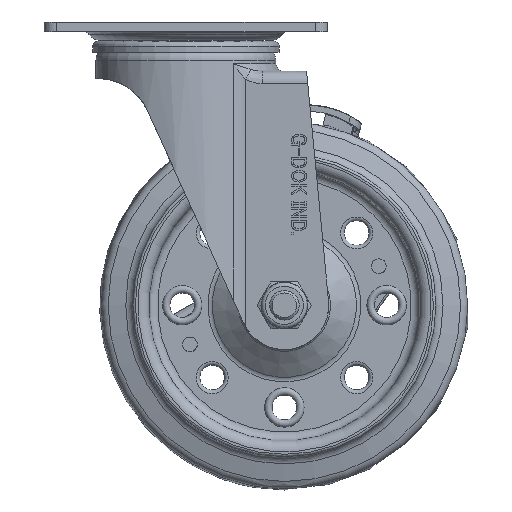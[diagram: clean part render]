
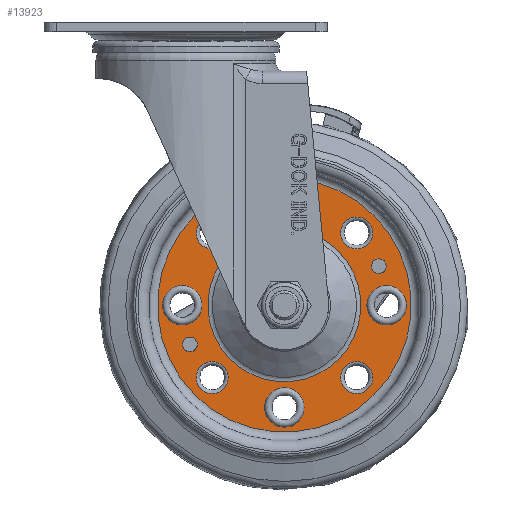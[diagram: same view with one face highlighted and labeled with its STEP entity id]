
A CAD part, left-side view. The second image highlights one B-rep face of the part: STEP entity #13923.
In plain terms, the highlighted planar face has unit normal (-1, 0, 0).
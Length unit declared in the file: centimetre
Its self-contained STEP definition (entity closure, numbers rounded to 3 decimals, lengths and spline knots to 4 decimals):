
#774=CIRCLE('',#15033,5.15);
#775=CIRCLE('',#15034,0.8);
#776=CIRCLE('',#15035,0.8);
#777=CIRCLE('',#15036,0.8);
#778=CIRCLE('',#15037,0.8);
#779=CIRCLE('',#15038,0.3);
#780=CIRCLE('',#15039,0.3);
#781=CIRCLE('',#15040,0.65);
#782=CIRCLE('',#15041,0.65);
#783=CIRCLE('',#15042,0.65);
#784=CIRCLE('',#15043,0.65);
#785=CIRCLE('',#15044,3.1053);
#3166=FACE_BOUND('',#5070,.T.);
#3167=FACE_BOUND('',#5071,.T.);
#3168=FACE_BOUND('',#5072,.T.);
#3169=FACE_BOUND('',#5073,.T.);
#3170=FACE_BOUND('',#5074,.T.);
#3171=FACE_BOUND('',#5075,.T.);
#3172=FACE_BOUND('',#5076,.T.);
#3173=FACE_BOUND('',#5077,.T.);
#3174=FACE_BOUND('',#5078,.T.);
#3175=FACE_BOUND('',#5079,.T.);
#3176=FACE_BOUND('',#5080,.T.);
#4034=FACE_OUTER_BOUND('',#5069,.T.);
#5069=EDGE_LOOP('',(#12630));
#5070=EDGE_LOOP('',(#12631));
#5071=EDGE_LOOP('',(#12632));
#5072=EDGE_LOOP('',(#12633));
#5073=EDGE_LOOP('',(#12634));
#5074=EDGE_LOOP('',(#12635));
#5075=EDGE_LOOP('',(#12636));
#5076=EDGE_LOOP('',(#12637));
#5077=EDGE_LOOP('',(#12638));
#5078=EDGE_LOOP('',(#12639));
#5079=EDGE_LOOP('',(#12640));
#5080=EDGE_LOOP('',(#12641));
#6911=VERTEX_POINT('',#32201);
#6912=VERTEX_POINT('',#32203);
#6913=VERTEX_POINT('',#32205);
#6914=VERTEX_POINT('',#32207);
#6915=VERTEX_POINT('',#32209);
#6916=VERTEX_POINT('',#32211);
#6917=VERTEX_POINT('',#32213);
#6918=VERTEX_POINT('',#32215);
#6919=VERTEX_POINT('',#32217);
#6920=VERTEX_POINT('',#32219);
#6921=VERTEX_POINT('',#32221);
#6922=VERTEX_POINT('',#32223);
#8844=EDGE_CURVE('',#6911,#6911,#774,.T.);
#8845=EDGE_CURVE('',#6912,#6912,#775,.T.);
#8846=EDGE_CURVE('',#6913,#6913,#776,.T.);
#8847=EDGE_CURVE('',#6914,#6914,#777,.T.);
#8848=EDGE_CURVE('',#6915,#6915,#778,.T.);
#8849=EDGE_CURVE('',#6916,#6916,#779,.T.);
#8850=EDGE_CURVE('',#6917,#6917,#780,.T.);
#8851=EDGE_CURVE('',#6918,#6918,#781,.T.);
#8852=EDGE_CURVE('',#6919,#6919,#782,.T.);
#8853=EDGE_CURVE('',#6920,#6920,#783,.T.);
#8854=EDGE_CURVE('',#6921,#6921,#784,.T.);
#8855=EDGE_CURVE('',#6922,#6922,#785,.T.);
#12630=ORIENTED_EDGE('',*,*,#8844,.F.);
#12631=ORIENTED_EDGE('',*,*,#8845,.T.);
#12632=ORIENTED_EDGE('',*,*,#8846,.T.);
#12633=ORIENTED_EDGE('',*,*,#8847,.T.);
#12634=ORIENTED_EDGE('',*,*,#8848,.T.);
#12635=ORIENTED_EDGE('',*,*,#8849,.T.);
#12636=ORIENTED_EDGE('',*,*,#8850,.T.);
#12637=ORIENTED_EDGE('',*,*,#8851,.T.);
#12638=ORIENTED_EDGE('',*,*,#8852,.T.);
#12639=ORIENTED_EDGE('',*,*,#8853,.T.);
#12640=ORIENTED_EDGE('',*,*,#8854,.T.);
#12641=ORIENTED_EDGE('',*,*,#8855,.T.);
#13135=PLANE('',#15032);
#13923=ADVANCED_FACE('',(#4034,#3166,#3167,#3168,#3169,#3170,#3171,#3172,
#3173,#3174,#3175,#3176),#13135,.T.);
#15032=AXIS2_PLACEMENT_3D('',#32200,#18188,#18189);
#15033=AXIS2_PLACEMENT_3D('',#32202,#18190,#18191);
#15034=AXIS2_PLACEMENT_3D('',#32204,#18192,#18193);
#15035=AXIS2_PLACEMENT_3D('',#32206,#18194,#18195);
#15036=AXIS2_PLACEMENT_3D('',#32208,#18196,#18197);
#15037=AXIS2_PLACEMENT_3D('',#32210,#18198,#18199);
#15038=AXIS2_PLACEMENT_3D('',#32212,#18200,#18201);
#15039=AXIS2_PLACEMENT_3D('',#32214,#18202,#18203);
#15040=AXIS2_PLACEMENT_3D('',#32216,#18204,#18205);
#15041=AXIS2_PLACEMENT_3D('',#32218,#18206,#18207);
#15042=AXIS2_PLACEMENT_3D('',#32220,#18208,#18209);
#15043=AXIS2_PLACEMENT_3D('',#32222,#18210,#18211);
#15044=AXIS2_PLACEMENT_3D('',#32224,#18212,#18213);
#18188=DIRECTION('center_axis',(-1.,0.,0.));
#18189=DIRECTION('ref_axis',(0.,-0.707,-0.707));
#18190=DIRECTION('center_axis',(1.,0.,0.));
#18191=DIRECTION('ref_axis',(0.,-0.707,0.707));
#18192=DIRECTION('center_axis',(1.,0.,0.));
#18193=DIRECTION('ref_axis',(0.,0.,
-1.));
#18194=DIRECTION('center_axis',(1.,0.,0.));
#18195=DIRECTION('ref_axis',(0.,1.,0.));
#18196=DIRECTION('center_axis',(1.,0.,0.));
#18197=DIRECTION('ref_axis',(0.,0.,
1.));
#18198=DIRECTION('center_axis',(1.,0.,0.));
#18199=DIRECTION('ref_axis',(0.,-1.,0.));
#18200=DIRECTION('center_axis',(1.,0.,0.));
#18201=DIRECTION('ref_axis',(0.,-0.707,-0.707));
#18202=DIRECTION('center_axis',(1.,0.,0.));
#18203=DIRECTION('ref_axis',(0.,-0.707,-0.707));
#18204=DIRECTION('center_axis',(1.,0.,0.));
#18205=DIRECTION('ref_axis',(0.,-0.707,0.707));
#18206=DIRECTION('center_axis',(1.,0.,0.));
#18207=DIRECTION('ref_axis',(0.,0.707,0.707));
#18208=DIRECTION('center_axis',(1.,0.,0.));
#18209=DIRECTION('ref_axis',(0.,0.707,-0.707));
#18210=DIRECTION('center_axis',(1.,0.,0.));
#18211=DIRECTION('ref_axis',(0.,-0.707,-0.707));
#18212=DIRECTION('center_axis',(1.,0.,0.));
#18213=DIRECTION('ref_axis',(0.,-0.707,0.707));
#32200=CARTESIAN_POINT('Origin',(-0.15,-6.9187,-7.6676));
#32201=CARTESIAN_POINT('',(-0.15,-7.6416,-6.9447));
#32202=CARTESIAN_POINT('Origin',(-0.15,-4.,-10.5863));
#32203=CARTESIAN_POINT('',(-0.15,-4.,-7.2363));
#32204=CARTESIAN_POINT('Origin',(-0.15,-4.,-6.4363));
#32205=CARTESIAN_POINT('',(-0.15,-7.35,-10.5863));
#32206=CARTESIAN_POINT('Origin',(-0.15,-8.15,-10.5863));
#32207=CARTESIAN_POINT('',(-0.15,-4.,-13.9363));
#32208=CARTESIAN_POINT('Origin',(-0.15,-4.,-14.7363));
#32209=CARTESIAN_POINT('',(-0.15,-0.65,-10.5863));
#32210=CARTESIAN_POINT('Origin',(-0.15,0.15,-10.5863));
#32211=CARTESIAN_POINT('',(-0.15,-7.622,-8.786));
#32212=CARTESIAN_POINT('Origin',(-0.15,-7.8341,-8.9982));
#32213=CARTESIAN_POINT('',(-0.15,0.0462,-11.9623));
#32214=CARTESIAN_POINT('Origin',(-0.15,-0.1659,
-12.1744));
#32215=CARTESIAN_POINT('',(-0.15,-0.6059,-8.1114));
#32216=CARTESIAN_POINT('Origin',(-0.15,-1.0655,-7.6518));
#32217=CARTESIAN_POINT('',(-0.15,-1.5251,-13.9804));
#32218=CARTESIAN_POINT('Origin',(-0.15,-1.0655,-13.5208));
#32219=CARTESIAN_POINT('',(-0.15,-7.3941,-13.0612));
#32220=CARTESIAN_POINT('Origin',(-0.15,-6.9345,-13.5208));
#32221=CARTESIAN_POINT('',(-0.15,-6.4749,-7.1922));
#32222=CARTESIAN_POINT('Origin',(-0.15,-6.9345,-7.6518));
#32223=CARTESIAN_POINT('',(-0.15,-6.1958,-8.3905));
#32224=CARTESIAN_POINT('Origin',(-0.15,-4.,-10.5863));
